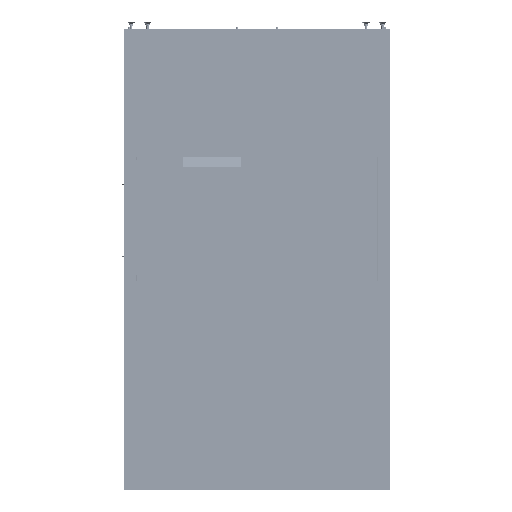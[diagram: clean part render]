
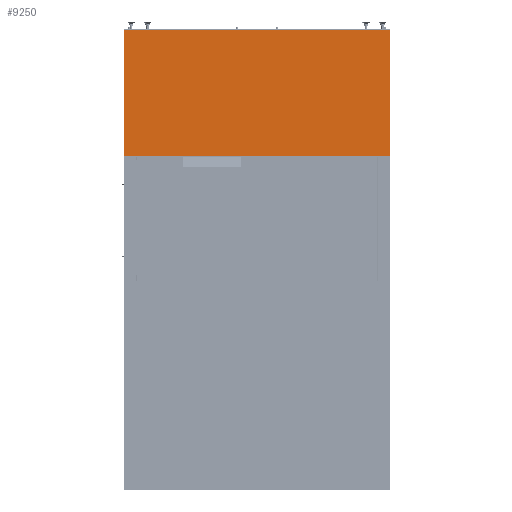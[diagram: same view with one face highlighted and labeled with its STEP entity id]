
A CAD part, left-side view. The second image highlights one B-rep face of the part: STEP entity #9250.
In plain terms, the highlighted planar face has unit normal (-1, 0, 0) as drawn and (0, -1, 0) by its records, which use the part's own axes.
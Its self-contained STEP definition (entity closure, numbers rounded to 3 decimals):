
#1424 = DIRECTION ( 'NONE',  ( 0., 1., 0. ) ) ;
#9250 = ADVANCED_FACE ( 'NONE', ( #110894 ), #55703, .F. ) ;
#9389 = CARTESIAN_POINT ( 'NONE',  ( -535., 0., 252. ) ) ;
#12536 = EDGE_CURVE ( 'NONE', #80704, #35839, #101510, .T. ) ;
#30519 = VERTEX_POINT ( 'NONE', #36086 ) ;
#35839 = VERTEX_POINT ( 'NONE', #43800 ) ;
#36086 = CARTESIAN_POINT ( 'NONE',  ( 535., 0., -252. ) ) ;
#37083 = LINE ( 'NONE', #96001, #140532 ) ;
#43373 = DIRECTION ( 'NONE',  ( 0., 0., -1. ) ) ;
#43800 = CARTESIAN_POINT ( 'NONE',  ( 535., 0., 252. ) ) ;
#44643 = VECTOR ( 'NONE', #65479, 1000. ) ;
#47131 = CARTESIAN_POINT ( 'NONE',  ( 535., 0., 252. ) ) ;
#54831 = VERTEX_POINT ( 'NONE', #129196 ) ;
#55703 = PLANE ( 'NONE',  #65668 ) ;
#58510 = CARTESIAN_POINT ( 'NONE',  ( 0., 0., 252. ) ) ;
#65479 = DIRECTION ( 'NONE',  ( 1., 0., 0. ) ) ;
#65668 = AXIS2_PLACEMENT_3D ( 'NONE', #58510, #1424, #175437 ) ;
#69153 = ORIENTED_EDGE ( 'NONE', *, *, #155553, .T. ) ;
#75800 = DIRECTION ( 'NONE',  ( 1., 0., 0. ) ) ;
#80704 = VERTEX_POINT ( 'NONE', #9389 ) ;
#88396 = ORIENTED_EDGE ( 'NONE', *, *, #105938, .F. ) ;
#96001 = CARTESIAN_POINT ( 'NONE',  ( -535., 0., 252. ) ) ;
#100654 = EDGE_CURVE ( 'NONE', #54831, #30519, #122491, .T. ) ;
#101510 = LINE ( 'NONE', #160427, #121984 ) ;
#105938 = EDGE_CURVE ( 'NONE', #35839, #30519, #115582, .T. ) ;
#110146 = CARTESIAN_POINT ( 'NONE',  ( 0., 0., -252. ) ) ;
#110894 = FACE_OUTER_BOUND ( 'NONE', #159640, .T. ) ;
#115582 = LINE ( 'NONE', #47131, #138974 ) ;
#121984 = VECTOR ( 'NONE', #75800, 1000. ) ;
#122491 = LINE ( 'NONE', #110146, #44643 ) ;
#129196 = CARTESIAN_POINT ( 'NONE',  ( -535., 0., -252. ) ) ;
#135934 = DIRECTION ( 'NONE',  ( 0., 0., -1. ) ) ;
#138009 = ORIENTED_EDGE ( 'NONE', *, *, #100654, .T. ) ;
#138974 = VECTOR ( 'NONE', #43373, 1000. ) ;
#140532 = VECTOR ( 'NONE', #135934, 1000. ) ;
#151784 = ORIENTED_EDGE ( 'NONE', *, *, #12536, .F. ) ;
#155553 = EDGE_CURVE ( 'NONE', #80704, #54831, #37083, .T. ) ;
#159640 = EDGE_LOOP ( 'NONE', ( #138009, #88396, #151784, #69153 ) ) ;
#160427 = CARTESIAN_POINT ( 'NONE',  ( 0., 0., 252. ) ) ;
#175437 = DIRECTION ( 'NONE',  ( -1., 0., 0. ) ) ;
